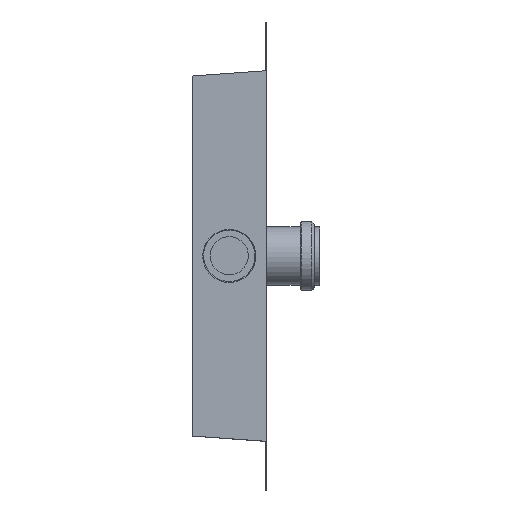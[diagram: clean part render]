
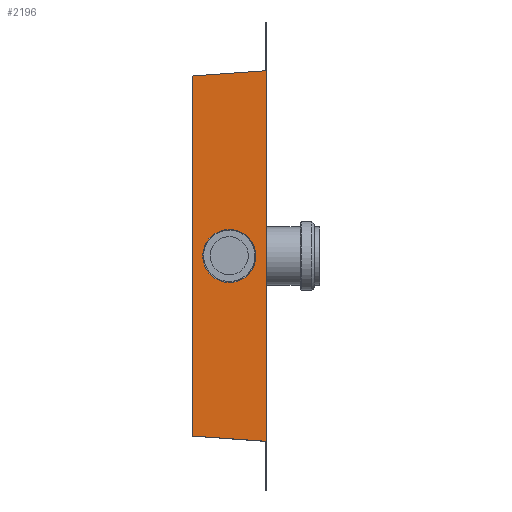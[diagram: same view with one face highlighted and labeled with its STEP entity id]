
A CAD part, front view. The second image highlights one B-rep face of the part: STEP entity #2196.
In plain terms, the highlighted planar face has unit normal (0, -1, 0.001).
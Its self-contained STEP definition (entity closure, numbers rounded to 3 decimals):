
#124=LINE('',#3298,#334);
#126=LINE('',#3302,#336);
#127=LINE('',#3304,#337);
#128=LINE('',#3305,#338);
#334=VECTOR('',#2719,10.);
#336=VECTOR('',#2723,10.);
#337=VECTOR('',#2724,10.);
#338=VECTOR('',#2725,10.);
#544=PLANE('',#2508);
#643=FACE_BOUND('',#849,.T.);
#702=FACE_OUTER_BOUND('',#848,.T.);
#848=EDGE_LOOP('',(#1602,#1603,#1604,#1605));
#849=EDGE_LOOP('',(#1606));
#1035=CIRCLE('',#2509,25.);
#1089=VERTEX_POINT('',#3295);
#1090=VERTEX_POINT('',#3297);
#1091=VERTEX_POINT('',#3301);
#1092=VERTEX_POINT('',#3303);
#1093=VERTEX_POINT('',#3306);
#1300=EDGE_CURVE('',#1090,#1089,#124,.T.);
#1302=EDGE_CURVE('',#1091,#1089,#126,.T.);
#1303=EDGE_CURVE('',#1091,#1092,#127,.T.);
#1304=EDGE_CURVE('',#1090,#1092,#128,.T.);
#1305=EDGE_CURVE('',#1093,#1093,#1035,.T.);
#1602=ORIENTED_EDGE('',*,*,#1300,.T.);
#1603=ORIENTED_EDGE('',*,*,#1302,.F.);
#1604=ORIENTED_EDGE('',*,*,#1303,.T.);
#1605=ORIENTED_EDGE('',*,*,#1304,.F.);
#1606=ORIENTED_EDGE('',*,*,#1305,.T.);
#2196=ADVANCED_FACE('',(#702,#643),#544,.T.);
#2508=AXIS2_PLACEMENT_3D('',#3300,#2721,#2722);
#2509=AXIS2_PLACEMENT_3D('',#3307,#2726,#2727);
#2719=DIRECTION('',(0.997,0.,-0.071));
#2721=DIRECTION('center_axis',(0.,-1.,0.));
#2722=DIRECTION('ref_axis',(0.,0.,-1.));
#2723=DIRECTION('',(0.,0.,-1.));
#2724=DIRECTION('',(-0.997,0.,-0.071));
#2725=DIRECTION('',(0.,0.,1.));
#2726=DIRECTION('center_axis',(0.,1.,0.));
#2727=DIRECTION('ref_axis',(-1.,0.,0.));
#3295=CARTESIAN_POINT('',(70.,0.,-350.));
#3297=CARTESIAN_POINT('',(0.,0.,-345.));
#3298=CARTESIAN_POINT('',(22.741,0.,-346.624));
#3300=CARTESIAN_POINT('Origin',(0.,0.,0.));
#3301=CARTESIAN_POINT('',(70.,0.,0.));
#3302=CARTESIAN_POINT('',(70.,0.,-350.));
#3303=CARTESIAN_POINT('',(0.,0.,-5.));
#3304=CARTESIAN_POINT('',(35.178,0.,-2.487));
#3305=CARTESIAN_POINT('',(0.,0.,-350.));
#3306=CARTESIAN_POINT('',(60.,0.,-175.));
#3307=CARTESIAN_POINT('Origin',(35.,0.,-175.));
